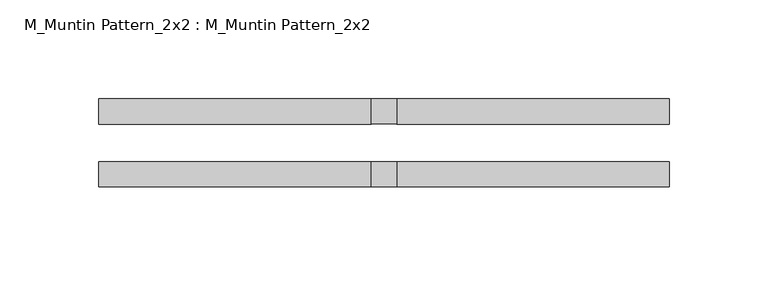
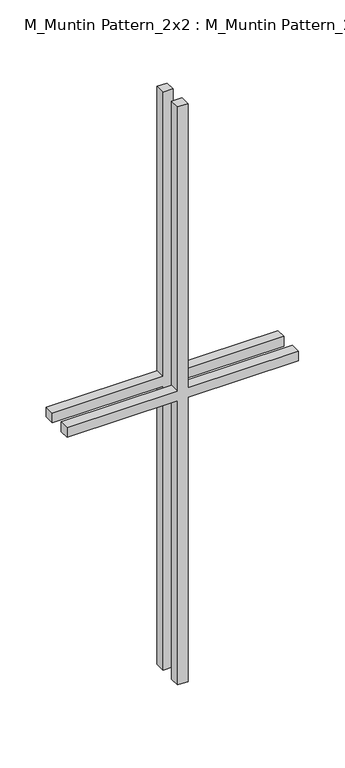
"""IFC4 building model written with IfcOpenShell, lengths in millimetres: proxy geometry, M_Muntin Pattern_2x2 : M_Muntin Pattern_2x2."""

from ifc_helpers import new_model, si_unit, frame, origin, place, context, project, spatial, polyline, outline, extrude, source, transform, mapped, element, save


def m_muntin_pattern_2x2_m_muntin_pattern_2x2_4fd78f17(model_context):
    return source(origin(), model_context, "Body", "SweptSolid", [
        extrude(outline(polyline([(386.5, -6.35), (386.5, -144.2375), (373.8, -144.2375), (373.8, -6.35), (0.0, -6.35), (0.0, 6.35), (373.8, 6.35), (373.8, 144.2375), (386.5, 144.2375), (386.5, 6.35), (760.3, 6.35), (760.3, -6.35), (386.5, -6.35)])), frame((0.0, -22.225, 0.0), z_axis=(0.0, 1.0, 0.0), x_axis=(0.0, 0.0, 1.0)), (0.0, 0.0, 1.0), 12.7),
        extrude(outline(polyline([(386.5, -6.35), (386.5, -144.2375), (373.8, -144.2375), (373.8, -6.35), (0.0, -6.35), (0.0, 6.35), (373.8, 6.35), (373.8, 144.2375), (386.5, 144.2375), (386.5, 6.35), (760.3, 6.35), (760.3, -6.35), (386.5, -6.35)])), frame((0.0, 9.525, 0.0), z_axis=(0.0, 1.0, 0.0), x_axis=(0.0, 0.0, 1.0)), (0.0, 0.0, 1.0), 12.7),
    ])


if __name__ == "__main__":
    model = new_model("IFC4")
    model_context = context("Model", 3, world=origin())
    ifc_project = project(units=[si_unit("LENGTHUNIT", "METRE", prefix="MILLI")], contexts=[model_context])
    site = spatial("IfcSite", under=ifc_project)
    building = spatial("IfcBuilding", under=site)
    placement = place(None, origin())
    m_muntin_pattern_2x2_m_muntin_pattern_2x2_shape = m_muntin_pattern_2x2_m_muntin_pattern_2x2_4fd78f17(model_context)
    element("IfcBuildingElementProxy", 1, Name="M_Muntin Pattern_2x2 : M_Muntin Pattern_2x2", ObjectType="M_Muntin Pattern_2x2 : M_Muntin Pattern_2x2", at=placement, inside=building, context=model_context, shape_type="MappedRepresentation", body=[
        mapped(m_muntin_pattern_2x2_m_muntin_pattern_2x2_shape, transform((0.0, 0.0, 0.0), x_axis=(1.0, 0.0, 0.0), y_axis=(0.0, 1.0, 0.0), z_axis=(0.0, 0.0, 1.0))),
    ])
    save(model, "model.ifc")
